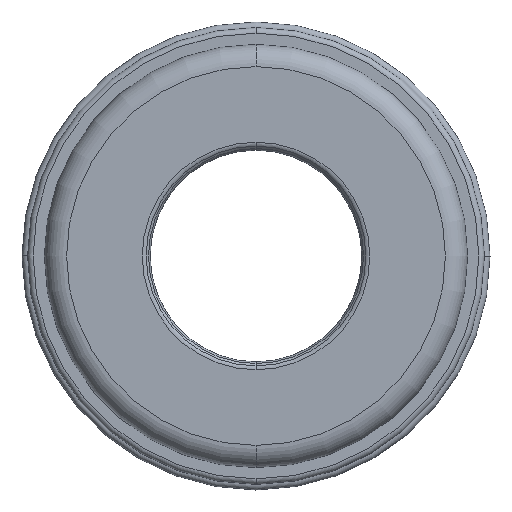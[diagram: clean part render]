
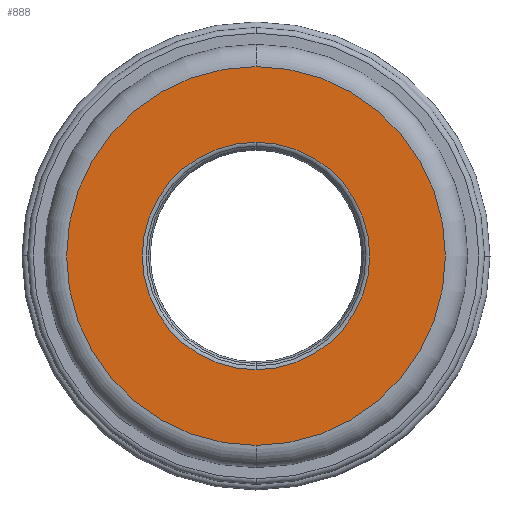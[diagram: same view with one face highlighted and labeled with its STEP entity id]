
A CAD part, left-side view. The second image highlights one B-rep face of the part: STEP entity #888.
In plain terms, the highlighted planar face has unit normal (-1, 0, 0).
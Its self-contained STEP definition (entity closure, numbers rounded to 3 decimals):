
#38 = ORIENTED_EDGE ( 'NONE', *, *, #157, .T. ) ;
#56 = CARTESIAN_POINT ( 'NONE',  ( -14.725, -1.853, -10.207 ) ) ;
#130 = FACE_OUTER_BOUND ( 'NONE', #865, .T. ) ;
#157 = EDGE_CURVE ( 'NONE', #1515, #1022, #1224, .T. ) ;
#239 = DIRECTION ( 'NONE',  ( -1., 0., 0. ) ) ;
#244 = CIRCLE ( 'NONE', #645, 10.207 ) ;
#270 = CARTESIAN_POINT ( 'NONE',  ( -14.725, -1.853, 0. ) ) ;
#368 = ORIENTED_EDGE ( 'NONE', *, *, #679, .T. ) ;
#391 = CARTESIAN_POINT ( 'NONE',  ( -14.725, -1.853, 0. ) ) ;
#466 = VERTEX_POINT ( 'NONE', #815 ) ;
#496 = ORIENTED_EDGE ( 'NONE', *, *, #830, .T. ) ;
#504 = CARTESIAN_POINT ( 'NONE',  ( -14.725, -1.853, -17. ) ) ;
#518 = AXIS2_PLACEMENT_3D ( 'NONE', #391, #239, #1504 ) ;
#565 = DIRECTION ( 'NONE',  ( 1., 0., 0. ) ) ;
#592 = AXIS2_PLACEMENT_3D ( 'NONE', #2013, #765, #1703 ) ;
#623 = VERTEX_POINT ( 'NONE', #56 ) ;
#645 = AXIS2_PLACEMENT_3D ( 'NONE', #707, #565, #1973 ) ;
#668 = CIRCLE ( 'NONE', #592, 10.207 ) ;
#679 = EDGE_CURVE ( 'NONE', #1022, #1515, #1826, .T. ) ;
#707 = CARTESIAN_POINT ( 'NONE',  ( -14.725, -1.853, 0. ) ) ;
#730 = AXIS2_PLACEMENT_3D ( 'NONE', #1979, #1995, #1506 ) ;
#765 = DIRECTION ( 'NONE',  ( 1., 0., 0. ) ) ;
#815 = CARTESIAN_POINT ( 'NONE',  ( -14.725, -1.853, 10.207 ) ) ;
#830 = EDGE_CURVE ( 'NONE', #623, #466, #668, .T. ) ;
#865 = EDGE_LOOP ( 'NONE', ( #368, #38 ) ) ;
#888 = ADVANCED_FACE ( 'NONE', ( #130, #1550 ), #923, .F. ) ;
#923 = PLANE ( 'NONE',  #1082 ) ;
#972 = ORIENTED_EDGE ( 'NONE', *, *, #1696, .T. ) ;
#1022 = VERTEX_POINT ( 'NONE', #504 ) ;
#1082 = AXIS2_PLACEMENT_3D ( 'NONE', #270, #1720, #1577 ) ;
#1224 = CIRCLE ( 'NONE', #518, 17. ) ;
#1504 = DIRECTION ( 'NONE',  ( 0., 0., -1. ) ) ;
#1506 = DIRECTION ( 'NONE',  ( 0., 0., -1. ) ) ;
#1515 = VERTEX_POINT ( 'NONE', #1823 ) ;
#1550 = FACE_BOUND ( 'NONE', #1612, .T. ) ;
#1577 = DIRECTION ( 'NONE',  ( 0., 0., -1. ) ) ;
#1612 = EDGE_LOOP ( 'NONE', ( #496, #972 ) ) ;
#1696 = EDGE_CURVE ( 'NONE', #466, #623, #244, .T. ) ;
#1703 = DIRECTION ( 'NONE',  ( 0., 0., -1. ) ) ;
#1720 = DIRECTION ( 'NONE',  ( 1., 0., 0. ) ) ;
#1823 = CARTESIAN_POINT ( 'NONE',  ( -14.725, -1.853, 17. ) ) ;
#1826 = CIRCLE ( 'NONE', #730, 17. ) ;
#1973 = DIRECTION ( 'NONE',  ( 0., 0., -1. ) ) ;
#1979 = CARTESIAN_POINT ( 'NONE',  ( -14.725, -1.853, 0. ) ) ;
#1995 = DIRECTION ( 'NONE',  ( -1., 0., 0. ) ) ;
#2013 = CARTESIAN_POINT ( 'NONE',  ( -14.725, -1.853, 0. ) ) ;
